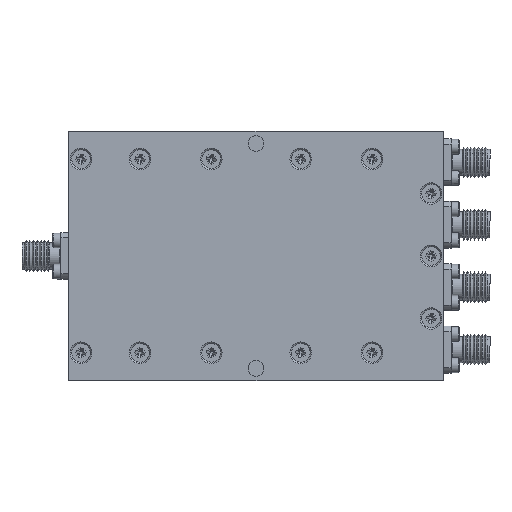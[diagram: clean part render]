
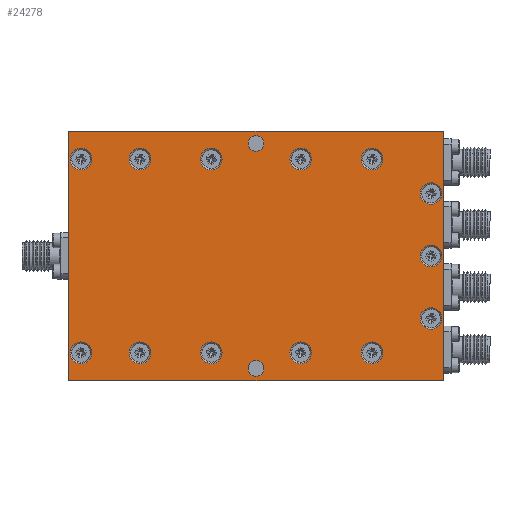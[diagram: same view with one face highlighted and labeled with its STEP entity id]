
A CAD part, top view. The second image highlights one B-rep face of the part: STEP entity #24278.
In plain terms, the highlighted planar face has unit normal (0, 0, 1).
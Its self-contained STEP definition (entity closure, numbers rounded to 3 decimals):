
#669=LINE('',#32920,#2093);
#670=LINE('',#32923,#2094);
#671=LINE('',#32925,#2095);
#672=LINE('',#32927,#2096);
#2093=VECTOR('',#27971,1000.);
#2094=VECTOR('',#27972,1000.);
#2095=VECTOR('',#27973,1000.);
#2096=VECTOR('',#27974,1000.);
#3452=PLANE('',#25660);
#4832=ORIENTED_EDGE('',*,*,#8709,.T.);
#4833=ORIENTED_EDGE('',*,*,#8710,.T.);
#4834=ORIENTED_EDGE('',*,*,#8711,.T.);
#4835=ORIENTED_EDGE('',*,*,#8712,.T.);
#4836=ORIENTED_EDGE('',*,*,#8708,.T.);
#4837=ORIENTED_EDGE('',*,*,#8706,.T.);
#4838=ORIENTED_EDGE('',*,*,#8704,.T.);
#4839=ORIENTED_EDGE('',*,*,#8702,.T.);
#4840=ORIENTED_EDGE('',*,*,#8700,.T.);
#4841=ORIENTED_EDGE('',*,*,#8698,.T.);
#4842=ORIENTED_EDGE('',*,*,#8696,.T.);
#4843=ORIENTED_EDGE('',*,*,#8694,.T.);
#4844=ORIENTED_EDGE('',*,*,#8692,.T.);
#4845=ORIENTED_EDGE('',*,*,#8690,.T.);
#4846=ORIENTED_EDGE('',*,*,#8688,.T.);
#4847=ORIENTED_EDGE('',*,*,#8686,.T.);
#4848=ORIENTED_EDGE('',*,*,#8684,.T.);
#4849=ORIENTED_EDGE('',*,*,#8681,.F.);
#4850=ORIENTED_EDGE('',*,*,#8679,.F.);
#8679=EDGE_CURVE('',#10722,#10722,#12177,.T.);
#8681=EDGE_CURVE('',#10724,#10724,#12179,.T.);
#8684=EDGE_CURVE('',#10727,#10727,#12182,.T.);
#8686=EDGE_CURVE('',#10729,#10729,#12184,.T.);
#8688=EDGE_CURVE('',#10731,#10731,#12186,.T.);
#8690=EDGE_CURVE('',#10733,#10733,#12188,.T.);
#8692=EDGE_CURVE('',#10735,#10735,#12190,.T.);
#8694=EDGE_CURVE('',#10737,#10737,#12192,.T.);
#8696=EDGE_CURVE('',#10739,#10739,#12194,.T.);
#8698=EDGE_CURVE('',#10741,#10741,#12196,.T.);
#8700=EDGE_CURVE('',#10743,#10743,#12198,.T.);
#8702=EDGE_CURVE('',#10745,#10745,#12200,.T.);
#8704=EDGE_CURVE('',#10747,#10747,#12202,.T.);
#8706=EDGE_CURVE('',#10749,#10749,#12204,.T.);
#8708=EDGE_CURVE('',#10751,#10751,#12206,.T.);
#8709=EDGE_CURVE('',#10752,#10753,#669,.T.);
#8710=EDGE_CURVE('',#10753,#10754,#670,.T.);
#8711=EDGE_CURVE('',#10754,#10755,#671,.T.);
#8712=EDGE_CURVE('',#10755,#10752,#672,.T.);
#10722=VERTEX_POINT('',#32846);
#10724=VERTEX_POINT('',#32851);
#10727=VERTEX_POINT('',#32858);
#10729=VERTEX_POINT('',#32863);
#10731=VERTEX_POINT('',#32868);
#10733=VERTEX_POINT('',#32873);
#10735=VERTEX_POINT('',#32878);
#10737=VERTEX_POINT('',#32883);
#10739=VERTEX_POINT('',#32888);
#10741=VERTEX_POINT('',#32893);
#10743=VERTEX_POINT('',#32898);
#10745=VERTEX_POINT('',#32903);
#10747=VERTEX_POINT('',#32908);
#10749=VERTEX_POINT('',#32913);
#10751=VERTEX_POINT('',#32918);
#10752=VERTEX_POINT('',#32921);
#10753=VERTEX_POINT('',#32922);
#10754=VERTEX_POINT('',#32924);
#10755=VERTEX_POINT('',#32926);
#12177=CIRCLE('',#25616,1.6);
#12179=CIRCLE('',#25619,1.6);
#12182=CIRCLE('',#25623,2.2);
#12184=CIRCLE('',#25626,2.2);
#12186=CIRCLE('',#25629,2.2);
#12188=CIRCLE('',#25632,2.2);
#12190=CIRCLE('',#25635,2.2);
#12192=CIRCLE('',#25638,2.2);
#12194=CIRCLE('',#25641,2.2);
#12196=CIRCLE('',#25644,2.2);
#12198=CIRCLE('',#25647,2.2);
#12200=CIRCLE('',#25650,2.2);
#12202=CIRCLE('',#25653,2.2);
#12204=CIRCLE('',#25656,2.2);
#12206=CIRCLE('',#25659,2.2);
#12984=EDGE_LOOP('',(#4832,#4833,#4834,#4835));
#12985=EDGE_LOOP('',(#4836));
#12986=EDGE_LOOP('',(#4837));
#12987=EDGE_LOOP('',(#4838));
#12988=EDGE_LOOP('',(#4839));
#12989=EDGE_LOOP('',(#4840));
#12990=EDGE_LOOP('',(#4841));
#12991=EDGE_LOOP('',(#4842));
#12992=EDGE_LOOP('',(#4843));
#12993=EDGE_LOOP('',(#4844));
#12994=EDGE_LOOP('',(#4845));
#12995=EDGE_LOOP('',(#4846));
#12996=EDGE_LOOP('',(#4847));
#12997=EDGE_LOOP('',(#4848));
#12998=EDGE_LOOP('',(#4849));
#12999=EDGE_LOOP('',(#4850));
#14672=FACE_BOUND('',#12984,.T.);
#14673=FACE_BOUND('',#12985,.T.);
#14674=FACE_BOUND('',#12986,.T.);
#14675=FACE_BOUND('',#12987,.T.);
#14676=FACE_BOUND('',#12988,.T.);
#14677=FACE_BOUND('',#12989,.T.);
#14678=FACE_BOUND('',#12990,.T.);
#14679=FACE_BOUND('',#12991,.T.);
#14680=FACE_BOUND('',#12992,.T.);
#14681=FACE_BOUND('',#12993,.T.);
#14682=FACE_BOUND('',#12994,.T.);
#14683=FACE_BOUND('',#12995,.T.);
#14684=FACE_BOUND('',#12996,.T.);
#14685=FACE_BOUND('',#12997,.T.);
#14686=FACE_BOUND('',#12998,.T.);
#14687=FACE_BOUND('',#12999,.T.);
#24278=ADVANCED_FACE('',(#14672,#14673,#14674,#14675,#14676,#14677,#14678,
#14679,#14680,#14681,#14682,#14683,#14684,#14685,#14686,#14687),#3452,.T.);
#25616=AXIS2_PLACEMENT_3D('',#32845,#27881,#27882);
#25619=AXIS2_PLACEMENT_3D('',#32850,#27887,#27888);
#25623=AXIS2_PLACEMENT_3D('',#32857,#27895,#27896);
#25626=AXIS2_PLACEMENT_3D('',#32862,#27901,#27902);
#25629=AXIS2_PLACEMENT_3D('',#32867,#27907,#27908);
#25632=AXIS2_PLACEMENT_3D('',#32872,#27913,#27914);
#25635=AXIS2_PLACEMENT_3D('',#32877,#27919,#27920);
#25638=AXIS2_PLACEMENT_3D('',#32882,#27925,#27926);
#25641=AXIS2_PLACEMENT_3D('',#32887,#27931,#27932);
#25644=AXIS2_PLACEMENT_3D('',#32892,#27937,#27938);
#25647=AXIS2_PLACEMENT_3D('',#32897,#27943,#27944);
#25650=AXIS2_PLACEMENT_3D('',#32902,#27949,#27950);
#25653=AXIS2_PLACEMENT_3D('',#32907,#27955,#27956);
#25656=AXIS2_PLACEMENT_3D('',#32912,#27961,#27962);
#25659=AXIS2_PLACEMENT_3D('',#32917,#27967,#27968);
#25660=AXIS2_PLACEMENT_3D('',#32919,#27969,#27970);
#27881=DIRECTION('',(0.,0.,1.));
#27882=DIRECTION('',(1.,0.,0.));
#27887=DIRECTION('',(0.,0.,1.));
#27888=DIRECTION('',(1.,0.,0.));
#27895=DIRECTION('',(0.,0.,-1.));
#27896=DIRECTION('',(0.,1.,0.));
#27901=DIRECTION('',(0.,0.,-1.));
#27902=DIRECTION('',(0.,1.,0.));
#27907=DIRECTION('',(0.,0.,-1.));
#27908=DIRECTION('',(0.,1.,0.));
#27913=DIRECTION('',(0.,0.,-1.));
#27914=DIRECTION('',(0.,1.,0.));
#27919=DIRECTION('',(0.,0.,-1.));
#27920=DIRECTION('',(0.,1.,0.));
#27925=DIRECTION('',(0.,0.,-1.));
#27926=DIRECTION('',(0.,1.,0.));
#27931=DIRECTION('',(0.,0.,-1.));
#27932=DIRECTION('',(0.,1.,0.));
#27937=DIRECTION('',(0.,0.,-1.));
#27938=DIRECTION('',(0.,1.,0.));
#27943=DIRECTION('',(0.,0.,-1.));
#27944=DIRECTION('',(0.,1.,0.));
#27949=DIRECTION('',(0.,0.,-1.));
#27950=DIRECTION('',(0.,1.,0.));
#27955=DIRECTION('',(0.,0.,-1.));
#27956=DIRECTION('',(0.,1.,0.));
#27961=DIRECTION('',(0.,0.,-1.));
#27962=DIRECTION('',(0.,1.,0.));
#27967=DIRECTION('',(0.,0.,-1.));
#27968=DIRECTION('',(0.,1.,0.));
#27969=DIRECTION('',(0.,0.,1.));
#27970=DIRECTION('',(1.,0.,0.));
#27971=DIRECTION('',(0.,1.,0.));
#27972=DIRECTION('',(-1.,0.,0.));
#27973=DIRECTION('',(0.,-1.,0.));
#27974=DIRECTION('',(1.,0.,0.));
#32845=CARTESIAN_POINT('',(0.,-22.86,6.286));
#32846=CARTESIAN_POINT('',(1.6,-22.86,6.286));
#32850=CARTESIAN_POINT('',(0.,22.86,6.286));
#32851=CARTESIAN_POINT('',(1.6,22.86,6.286));
#32857=CARTESIAN_POINT('',(9.1,19.7,6.286));
#32858=CARTESIAN_POINT('',(9.1,21.9,6.286));
#32862=CARTESIAN_POINT('',(9.1,-19.7,6.286));
#32863=CARTESIAN_POINT('',(9.1,-17.5,6.286));
#32867=CARTESIAN_POINT('',(-9.1,-19.7,6.286));
#32868=CARTESIAN_POINT('',(-9.1,-17.5,6.286));
#32872=CARTESIAN_POINT('',(-9.1,19.7,6.286));
#32873=CARTESIAN_POINT('',(-9.1,21.9,6.286));
#32877=CARTESIAN_POINT('',(35.6,-12.7,6.286));
#32878=CARTESIAN_POINT('',(35.6,-10.5,6.286));
#32882=CARTESIAN_POINT('',(35.6,12.7,6.286));
#32883=CARTESIAN_POINT('',(35.6,14.9,6.286));
#32887=CARTESIAN_POINT('',(-35.6,-19.7,6.286));
#32888=CARTESIAN_POINT('',(-35.6,-17.5,6.286));
#32892=CARTESIAN_POINT('',(-23.6,-19.7,6.286));
#32893=CARTESIAN_POINT('',(-23.6,-17.5,6.286));
#32897=CARTESIAN_POINT('',(23.6,-19.7,6.286));
#32898=CARTESIAN_POINT('',(23.6,-17.5,6.286));
#32902=CARTESIAN_POINT('',(35.6,0.,6.286));
#32903=CARTESIAN_POINT('',(35.6,2.2,6.286));
#32907=CARTESIAN_POINT('',(23.6,19.7,6.286));
#32908=CARTESIAN_POINT('',(23.6,21.9,6.286));
#32912=CARTESIAN_POINT('',(-23.6,19.7,6.286));
#32913=CARTESIAN_POINT('',(-23.6,21.9,6.286));
#32917=CARTESIAN_POINT('',(-35.6,19.7,6.286));
#32918=CARTESIAN_POINT('',(-35.6,21.9,6.286));
#32919=CARTESIAN_POINT('',(0.,0.,
6.286));
#32920=CARTESIAN_POINT('',(38.1,-25.4,6.286));
#32921=CARTESIAN_POINT('',(38.1,-25.4,6.286));
#32922=CARTESIAN_POINT('',(38.1,25.4,6.286));
#32923=CARTESIAN_POINT('',(38.1,25.4,6.286));
#32924=CARTESIAN_POINT('',(-38.1,25.4,6.286));
#32925=CARTESIAN_POINT('',(-38.1,25.4,6.286));
#32926=CARTESIAN_POINT('',(-38.1,-25.4,6.286));
#32927=CARTESIAN_POINT('',(-38.1,-25.4,6.286));
